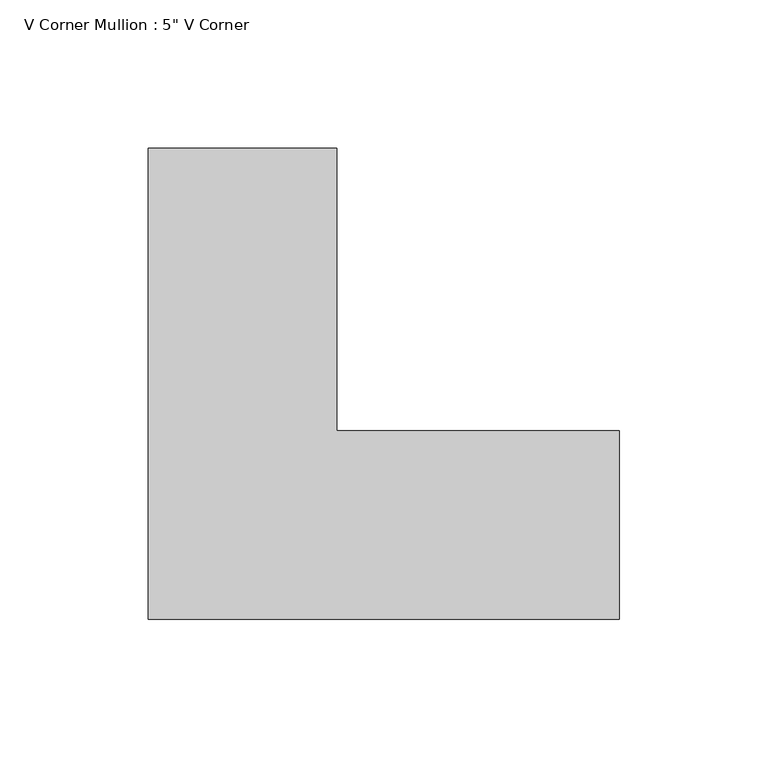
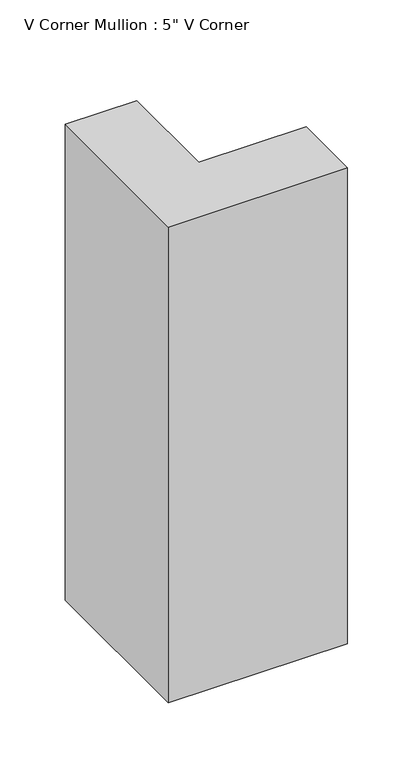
"""IFC4 building model written with IfcOpenShell, lengths in millimetres: member geometry."""

from ifc_helpers import new_model, si_unit, frame, origin, place, context, project, spatial, polyline, outline, extrude, source, transform, mapped, element, save


def member_59f4f75c(model_context):
    return source(origin(), model_context, "Body", "SweptSolid", [
        extrude(outline(polyline([(63.5, -95.25), (-95.25, -95.25), (-95.25, 63.5), (-31.75, 63.5), (-31.75, -31.75), (63.5, -31.75), (63.5, -95.25)])), frame((0.0, 0.0, -446.2470006), z_axis=(0.0, 0.0, 1.0), x_axis=(1.0, 0.0, 0.0)), (0.0, 0.0, 1.0), 446.2470006),
    ])


if __name__ == "__main__":
    model = new_model("IFC4")
    model_context = context("Model", 3, world=origin())
    ifc_project = project(units=[si_unit("LENGTHUNIT", "METRE", prefix="MILLI")], contexts=[model_context])
    site = spatial("IfcSite", under=ifc_project)
    building = spatial("IfcBuilding", under=site)
    placement = place(None, origin())
    member_shape = member_59f4f75c(model_context)
    element("IfcMember", 1, ObjectType="V Corner Mullion : 5\" V Corner", at=placement, inside=building, context=model_context, shape_type="MappedRepresentation", body=[
        mapped(member_shape, transform((0.0, 0.0, 0.0), x_axis=(1.0, 0.0, 0.0), y_axis=(0.0, 1.0, 0.0), z_axis=(0.0, 0.0, 1.0))),
    ])
    save(model, "model.ifc")
